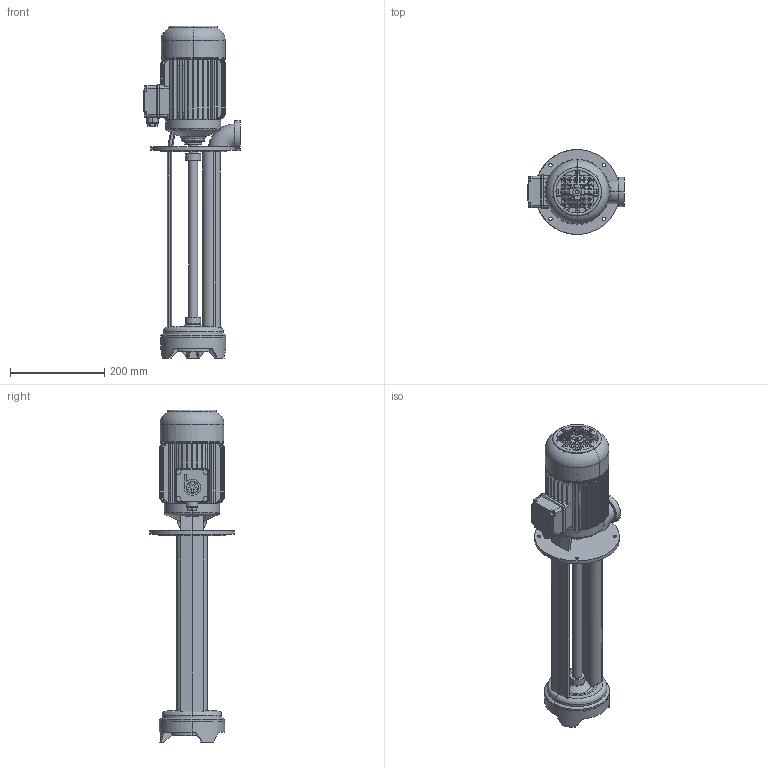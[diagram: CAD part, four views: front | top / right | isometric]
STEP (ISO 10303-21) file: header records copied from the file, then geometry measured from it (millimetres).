
FILE_DESCRIPTION(('no description'),'unknown implementation level');
FILE_NAME('TA160_440_4.stp',' ',('K. H. Brinkmann GmbH & Co. KG'),('CADClick - KiM GmbH - www.kimweb.de'),'unknown preprocess','ACIS','unknown authorization');
FILE_SCHEMA(('automotive_design'));
Length unit declared in the file: millimetre
Products named in the file (3): 1; 2; 3
Bounding box: 205 x 180 x 704 mm (x, y, z)
Volume: 4678345.6 mm3; surface area: 599040.8 mm2
Topology: 3 solids, 3 shells, 855 faces, 2369 edges, 1546 vertices
Faces by surface type: plane 507, cylinder 190, torus 110, cone 48
Entity records: 59258 total; most frequent: CARTESIAN_POINT 10565, STYLED_ITEM 4773, PRESENTATION_STYLE_ASSIGNMENT 4773, COLOUR_RGB 4773, ORIENTED_EDGE 4738, DIRECTION 4513, EDGE_CURVE 2369, CURVE_STYLE 2369
